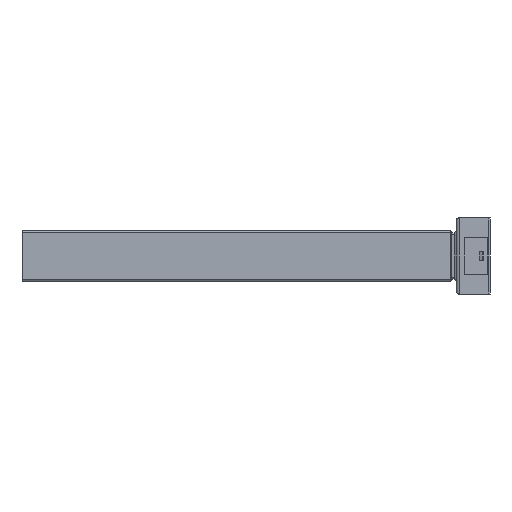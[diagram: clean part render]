
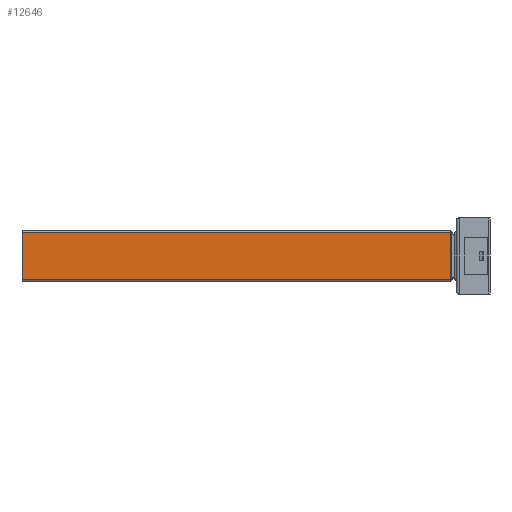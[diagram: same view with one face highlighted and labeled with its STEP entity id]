
A CAD part, left-side view. The second image highlights one B-rep face of the part: STEP entity #12646.
In plain terms, the highlighted planar face has unit normal (-1, 0, 0).
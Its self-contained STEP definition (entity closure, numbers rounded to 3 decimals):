
#371 = EDGE_CURVE ( 'NONE', #677, #5696, #4802, .T. ) ;
#414 = PLANE ( 'NONE',  #3468 ) ;
#667 = VECTOR ( 'NONE', #2279, 1000. ) ;
#677 = VERTEX_POINT ( 'NONE', #4909 ) ;
#894 = EDGE_CURVE ( 'NONE', #5696, #9991, #1422, .T. ) ;
#958 = ORIENTED_EDGE ( 'NONE', *, *, #371, .T. ) ;
#1030 = CARTESIAN_POINT ( 'NONE',  ( -35., 601.5, 32.5 ) ) ;
#1422 = LINE ( 'NONE', #5570, #5544 ) ;
#2279 = DIRECTION ( 'NONE',  ( 0., -1., 0. ) ) ;
#2940 = DIRECTION ( 'NONE',  ( 0., 1., 0. ) ) ;
#3422 = ORIENTED_EDGE ( 'NONE', *, *, #7739, .F. ) ;
#3468 = AXIS2_PLACEMENT_3D ( 'NONE', #10238, #4603, #7412 ) ;
#3575 = LINE ( 'NONE', #1030, #7279 ) ;
#3650 = DIRECTION ( 'NONE',  ( 0., 0., 1. ) ) ;
#3981 = CARTESIAN_POINT ( 'NONE',  ( -35., 601.5, 32.5 ) ) ;
#4019 = DIRECTION ( 'NONE',  ( 0., 0., 1. ) ) ;
#4177 = EDGE_LOOP ( 'NONE', ( #958, #12186, #6816, #3422 ) ) ;
#4603 = DIRECTION ( 'NONE',  ( 1., 0., 0. ) ) ;
#4802 = LINE ( 'NONE', #7285, #667 ) ;
#4909 = CARTESIAN_POINT ( 'NONE',  ( -35., 601.5, -32.5 ) ) ;
#5218 = VERTEX_POINT ( 'NONE', #3981 ) ;
#5544 = VECTOR ( 'NONE', #3650, 1000. ) ;
#5557 = VECTOR ( 'NONE', #4019, 1000. ) ;
#5570 = CARTESIAN_POINT ( 'NONE',  ( -35., 10.583, 32.5 ) ) ;
#5572 = CARTESIAN_POINT ( 'NONE',  ( -35., 10.583, 32.5 ) ) ;
#5696 = VERTEX_POINT ( 'NONE', #10646 ) ;
#6816 = ORIENTED_EDGE ( 'NONE', *, *, #7628, .T. ) ;
#7279 = VECTOR ( 'NONE', #2940, 1000. ) ;
#7285 = CARTESIAN_POINT ( 'NONE',  ( -35., 601.5, -32.5 ) ) ;
#7412 = DIRECTION ( 'NONE',  ( 0., 0., -1. ) ) ;
#7628 = EDGE_CURVE ( 'NONE', #9991, #5218, #3575, .T. ) ;
#7739 = EDGE_CURVE ( 'NONE', #677, #5218, #8178, .T. ) ;
#8178 = LINE ( 'NONE', #10949, #5557 ) ;
#9991 = VERTEX_POINT ( 'NONE', #5572 ) ;
#10238 = CARTESIAN_POINT ( 'NONE',  ( -35., 601.5, -35. ) ) ;
#10646 = CARTESIAN_POINT ( 'NONE',  ( -35., 10.583, -32.5 ) ) ;
#10949 = CARTESIAN_POINT ( 'NONE',  ( -35., 601.5, -35. ) ) ;
#12045 = FACE_OUTER_BOUND ( 'NONE', #4177, .T. ) ;
#12186 = ORIENTED_EDGE ( 'NONE', *, *, #894, .T. ) ;
#12646 = ADVANCED_FACE ( 'NONE', ( #12045 ), #414, .F. ) ;
